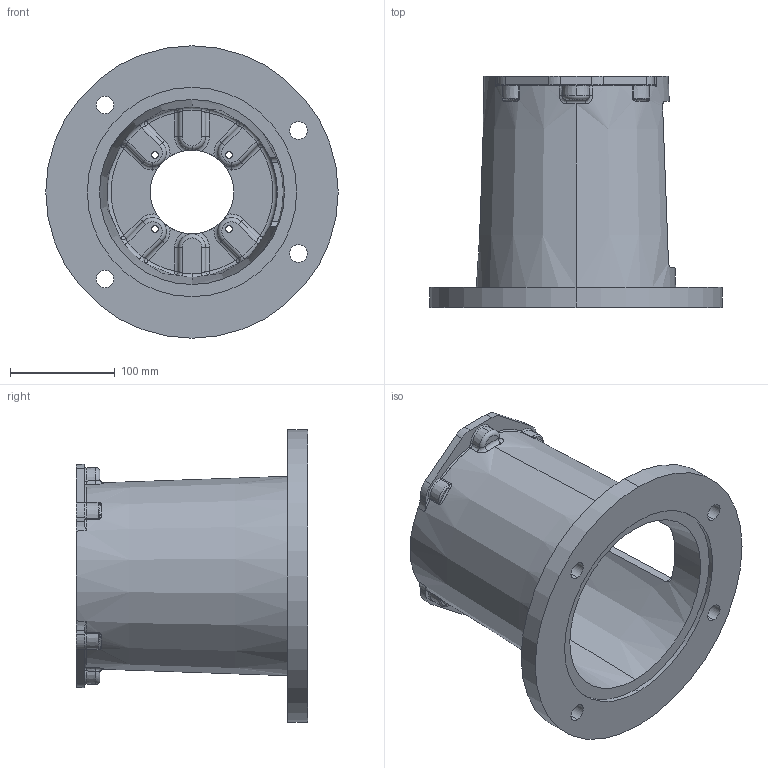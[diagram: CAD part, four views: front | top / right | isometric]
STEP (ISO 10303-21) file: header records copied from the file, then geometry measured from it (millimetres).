
FILE_DESCRIPTION (( 'STEP AP203' ), '1' );
FILE_NAME ('E7878680MS.STEP', '2014-11-04T15:58:08', ( '' ), ( '' ), 'SwSTEP 2.0', 'SolidWorks 2014', '' );
FILE_SCHEMA (( 'CONFIG_CONTROL_DESIGN' ));
Length unit declared in the file: inch
Products named in the file (1): E7878680MS
Bounding box: 279.4 x 220.73 x 279.4 mm (x, y, z)
Volume: 1653693.5 mm3; surface area: 352076.7 mm2
Topology: 1 solids, 1 shells, 335 faces, 841 edges, 498 vertices
Faces by surface type: torus 97, cylinder 82, bspline 64, plane 50, sphere 24, cone 18
Entity records: 13271 total; most frequent: CARTESIAN_POINT 5505, ORIENTED_EDGE 1658, DIRECTION 1658, EDGE_CURVE 829, AXIS2_PLACEMENT_3D 751, VERTEX_POINT 498, CIRCLE 479, EDGE_LOOP 357
